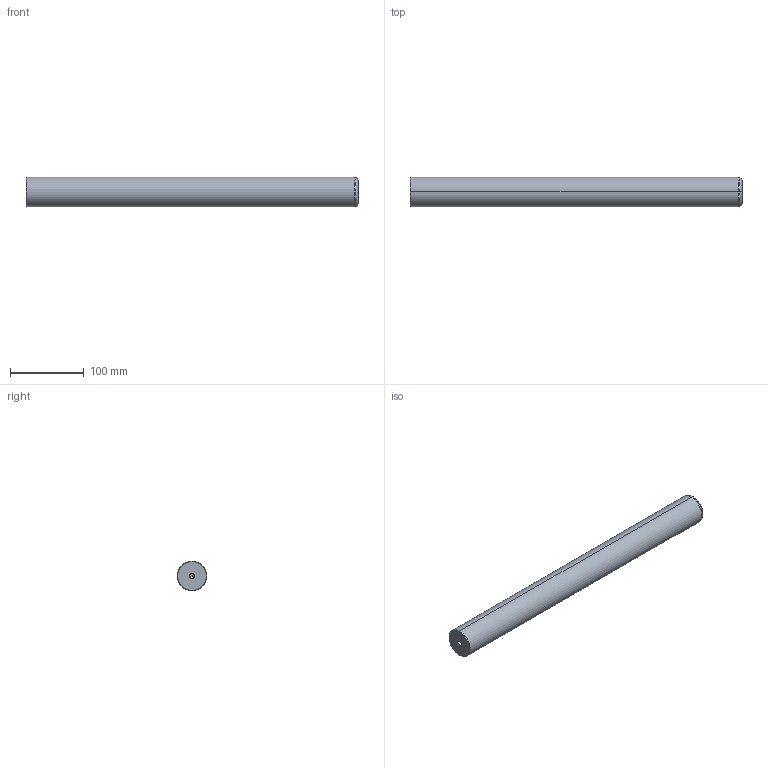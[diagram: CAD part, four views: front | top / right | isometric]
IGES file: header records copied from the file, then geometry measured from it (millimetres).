
Start section: START RECORD GO HERE.
Global section: file name: 720-40x450.igs; native system: DASSAULT SYSTEMES CATIA V5 R20 - www.3ds.com; preprocessor: CATIA Version 5 Release 20 ; author: Utente; organization: NB04-ASUS; date: 20201230.225412; units: millimetre
Bounding box: 450 x 40 x 40 mm (x, y, z)
Surface area: 59732.8 mm2 (no closed solid volume)
Topology: 0 solids, 0 shells, 22 faces, 120 edges, 116 vertices
Faces by surface type: revolution 20, plane 2
